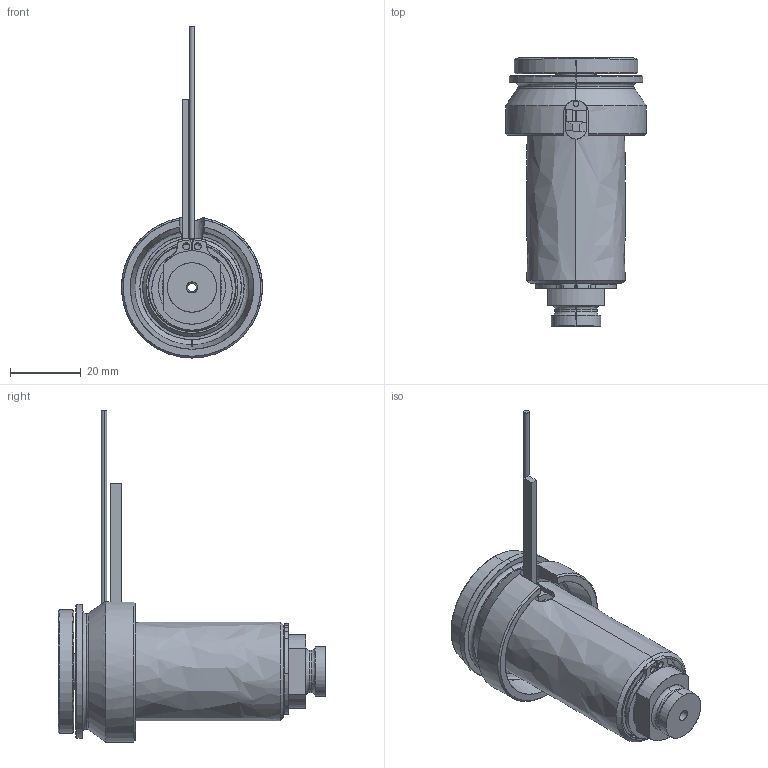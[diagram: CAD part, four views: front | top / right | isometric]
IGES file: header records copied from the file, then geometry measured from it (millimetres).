
Start section: SolidWorks IGES file using analytic representation for surfaces
Global section: file name: C:\Documents and Settings\ws-20\Desktop\TEMPORANEA\UGBE4001-S-A-3 [Ød-2.5 P-0 ØC-10].IGS; native system: SolidWorks 2012; preprocessor: SolidWorks 2012; author: ws-20; date: 120306.140512; units: millimetre
Bounding box: 40 x 76 x 94.15 mm (x, y, z)
Surface area: 24610.9 mm2 (no closed solid volume)
Topology: 0 solids, 0 shells, 109 faces, 1919 edges, 1919 vertices
Faces by surface type: revolution 66, bspline 43
